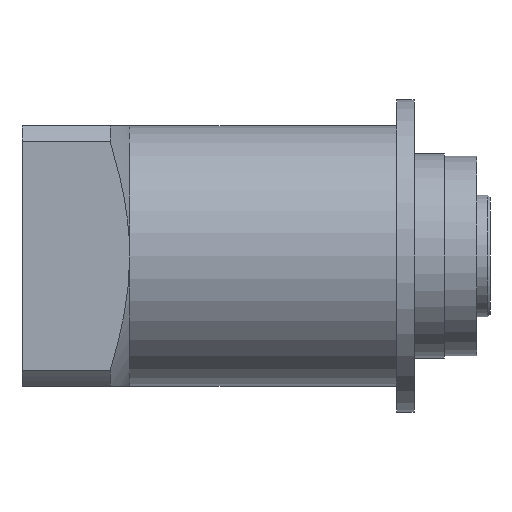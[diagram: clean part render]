
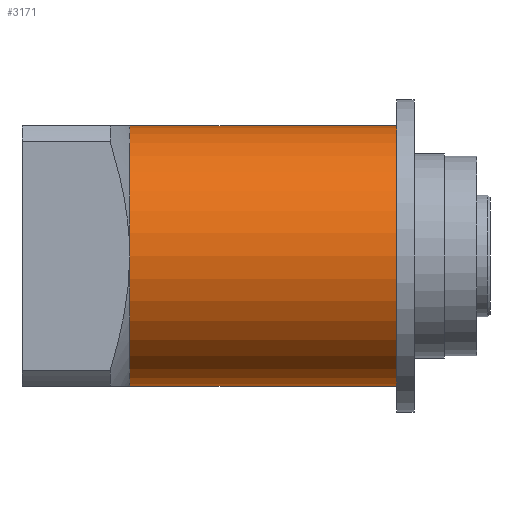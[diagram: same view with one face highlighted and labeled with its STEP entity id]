
A CAD part, front view. The second image highlights one B-rep face of the part: STEP entity #3171.
In plain terms, the highlighted cylindrical face has radius 30 mm (diameter 60 mm), a partial arc.
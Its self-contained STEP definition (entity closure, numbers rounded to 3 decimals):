
#132 = DIRECTION ( 'NONE',  ( 0., 0., 1. ) ) ;
#243 = LINE ( 'NONE', #1593, #2956 ) ;
#502 = VERTEX_POINT ( 'NONE', #4241 ) ;
#533 = ORIENTED_EDGE ( 'NONE', *, *, #3256, .F. ) ;
#554 = CYLINDRICAL_SURFACE ( 'NONE', #1578, 30. ) ;
#765 = CARTESIAN_POINT ( 'NONE',  ( -4., 0., 0. ) ) ;
#849 = AXIS2_PLACEMENT_3D ( 'NONE', #765, #3121, #1120 ) ;
#999 = CARTESIAN_POINT ( 'NONE',  ( 57.5, 0., -30. ) ) ;
#1108 = CARTESIAN_POINT ( 'NONE',  ( 57.5, 0., 30. ) ) ;
#1120 = DIRECTION ( 'NONE',  ( 0., 0., -1. ) ) ;
#1414 = VECTOR ( 'NONE', #1607, 1000. ) ;
#1511 = CARTESIAN_POINT ( 'NONE',  ( -4., 0., -30. ) ) ;
#1526 = LINE ( 'NONE', #3572, #1414 ) ;
#1578 = AXIS2_PLACEMENT_3D ( 'NONE', #4121, #1865, #132 ) ;
#1593 = CARTESIAN_POINT ( 'NONE',  ( 0., 0., -30. ) ) ;
#1596 = EDGE_CURVE ( 'NONE', #4010, #502, #3320, .T. ) ;
#1607 = DIRECTION ( 'NONE',  ( -1., 0., 0. ) ) ;
#1744 = DIRECTION ( 'NONE',  ( -1., 0., 0. ) ) ;
#1757 = EDGE_CURVE ( 'NONE', #502, #3600, #1767, .T. ) ;
#1767 = CIRCLE ( 'NONE', #849, 30. ) ;
#1865 = DIRECTION ( 'NONE',  ( -1., 0., 0. ) ) ;
#2015 = AXIS2_PLACEMENT_3D ( 'NONE', #3700, #1744, #4012 ) ;
#2037 = ORIENTED_EDGE ( 'NONE', *, *, #3889, .T. ) ;
#2067 = CARTESIAN_POINT ( 'NONE',  ( -4., 0., 0. ) ) ;
#2117 = CARTESIAN_POINT ( 'NONE',  ( -4., 0., 30. ) ) ;
#2390 = ORIENTED_EDGE ( 'NONE', *, *, #3737, .T. ) ;
#2407 = DIRECTION ( 'NONE',  ( 0., 0., -1. ) ) ;
#2579 = DIRECTION ( 'NONE',  ( -1., 0., 0. ) ) ;
#2589 = ORIENTED_EDGE ( 'NONE', *, *, #1596, .T. ) ;
#2791 = VERTEX_POINT ( 'NONE', #999 ) ;
#2956 = VECTOR ( 'NONE', #2579, 1000. ) ;
#3056 = VERTEX_POINT ( 'NONE', #1108 ) ;
#3121 = DIRECTION ( 'NONE',  ( 1., 0., 0. ) ) ;
#3122 = ORIENTED_EDGE ( 'NONE', *, *, #1757, .T. ) ;
#3171 = ADVANCED_FACE ( 'NONE', ( #3250 ), #554, .T. ) ;
#3250 = FACE_OUTER_BOUND ( 'NONE', #3872, .T. ) ;
#3256 = EDGE_CURVE ( 'NONE', #2791, #3600, #243, .T. ) ;
#3320 = CIRCLE ( 'NONE', #3389, 30. ) ;
#3389 = AXIS2_PLACEMENT_3D ( 'NONE', #2067, #4334, #2407 ) ;
#3534 = CIRCLE ( 'NONE', #2015, 30. ) ;
#3572 = CARTESIAN_POINT ( 'NONE',  ( 0., 0., 30. ) ) ;
#3600 = VERTEX_POINT ( 'NONE', #1511 ) ;
#3700 = CARTESIAN_POINT ( 'NONE',  ( 57.5, 0., 0. ) ) ;
#3737 = EDGE_CURVE ( 'NONE', #3056, #4010, #1526, .T. ) ;
#3872 = EDGE_LOOP ( 'NONE', ( #533, #2037, #2390, #2589, #3122 ) ) ;
#3889 = EDGE_CURVE ( 'NONE', #2791, #3056, #3534, .T. ) ;
#4010 = VERTEX_POINT ( 'NONE', #2117 ) ;
#4012 = DIRECTION ( 'NONE',  ( 0., 0., 1. ) ) ;
#4121 = CARTESIAN_POINT ( 'NONE',  ( 0., 0., 0. ) ) ;
#4241 = CARTESIAN_POINT ( 'NONE',  ( -4., -30., 0. ) ) ;
#4334 = DIRECTION ( 'NONE',  ( 1., 0., 0. ) ) ;
